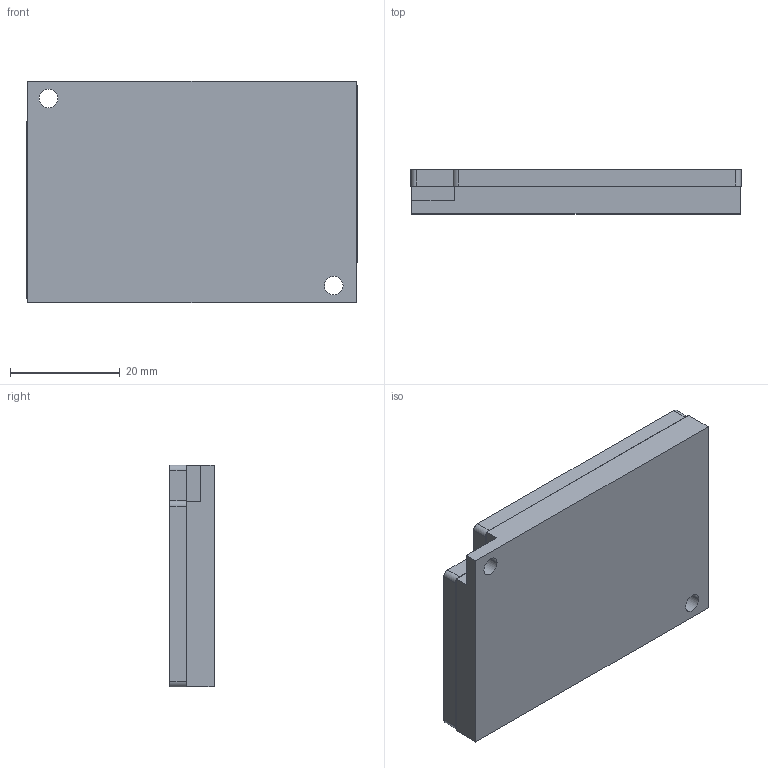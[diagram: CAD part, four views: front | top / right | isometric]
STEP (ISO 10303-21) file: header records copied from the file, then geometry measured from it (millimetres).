
FILE_DESCRIPTION((''),'2;1');
FILE_NAME('ASM0001_ASM','2018-07-21T08:48:59',('Administrator'),(''),'CREO PARAMETRIC BY PTC INC, 2016390','CREO PARAMETRIC BY PTC INC, 2016390','');
FILE_SCHEMA(('CONFIG_CONTROL_DESIGN'));
Length unit declared in the file: millimetre
Products named in the file (3): 35; SW-036; ASM0001_ASM
Assembly tree (2 placements, depth 2):
  ASM0001_ASM
    35
    SW-036
Bounding box: 60.3 x 8.1 x 40.5 mm (x, y, z)
Volume: 13622.6 mm3; surface area: 12099.6 mm2
Topology: 2 solids, 2 shells, 108 faces, 288 edges, 192 vertices
Faces by surface type: plane 98, cylinder 10
Entity records: 3408 total; most frequent: CARTESIAN_POINT 593, ORIENTED_EDGE 576, DIRECTION 534, EDGE_CURVE 288, VECTOR 268, LINE 268, VERTEX_POINT 192, AXIS2_PLACEMENT_3D 133
